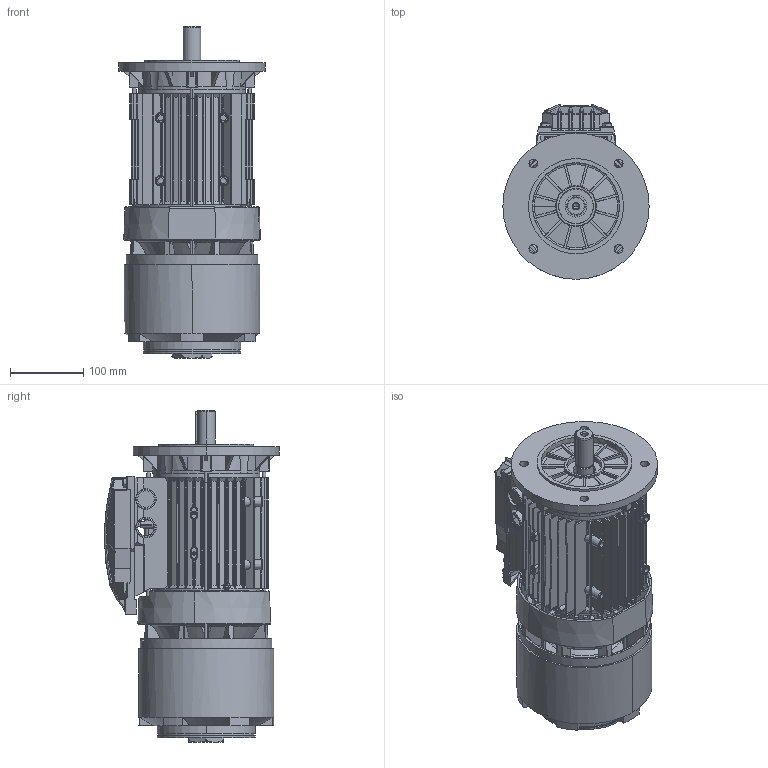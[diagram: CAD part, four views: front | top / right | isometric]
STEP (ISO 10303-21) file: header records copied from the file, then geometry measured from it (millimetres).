
FILE_DESCRIPTION (( 'STEP AP214' ), '1' );
FILE_NAME ('M08FB0017.STEP', '2024-05-30T10:23:20', ( '' ), ( '' ), 'SwSTEP 2.0', 'SolidWorks 2023', '' );
FILE_SCHEMA (( 'AUTOMOTIVE_DESIGN' ));
Length unit declared in the file: millimetre
Products named in the file (14): Scudo lato freno BA 90 P1 - DI_Soluzione 2; Tirante BA 90L - DBA60094; Tappo a testa Esagonale M40x1,5; Assieme coperchio scatola DI 100-112; Coperchio 100-112 DI; Albero BA 90 L; Chiavetta 90; M08FB0017; Scudo a flangia B5 Fi 200 BA-BM 90 - DDAA00195; Guarnizione Coperchio scatola 100-112 DI; Vite per coperchio morsettiera; Carcassa 90 L B5 - DI; Cuffia BAH 90 - DDGV0017; Convogliatore con pista d''attrito P2 BAH 90 - DDGY0018
Assembly tree (19 placements, depth 3):
  M08FB0017
    Carcassa 90 L B5 - DI
    Scudo a flangia B5 Fi 200 BA-BM 90 - DDAA00195
    Scudo lato freno BA 90 P1 - DI_Soluzione 2
    Albero BA 90 L
    Chiavetta 90
    Convogliatore con pista d''attrito P2 BAH 90 - DDGY0018
    Tirante BA 90L - DBA60094  x4
    Assieme coperchio scatola DI 100-112
      Coperchio 100-112 DI
      Guarnizione Coperchio scatola 100-112 DI
      Vite per coperchio morsettiera  x4
    Cuffia BAH 90 - DDGV0017
    Tappo a testa Esagonale M40x1,5
Bounding box: 200 x 238.99 x 454 mm (x, y, z)
Volume: 2272434.3 mm3; surface area: 1062984.9 mm2
Topology: 22 solids, 22 shells, 4213 faces, 11328 edges, 7180 vertices
Faces by surface type: plane 1748, cylinder 1007, bspline 529, cone 465, torus 433, sphere 31
Entity records: 175755 total; most frequent: CARTESIAN_POINT 73559, ORIENTED_EDGE 21340, DIRECTION 17372, EDGE_CURVE 10670, VERTEX_POINT 6842, AXIS2_PLACEMENT_3D 6284, LINE 4804, VECTOR 4804
